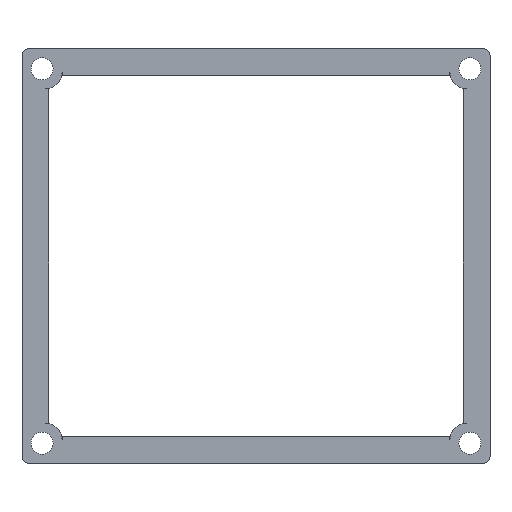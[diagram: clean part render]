
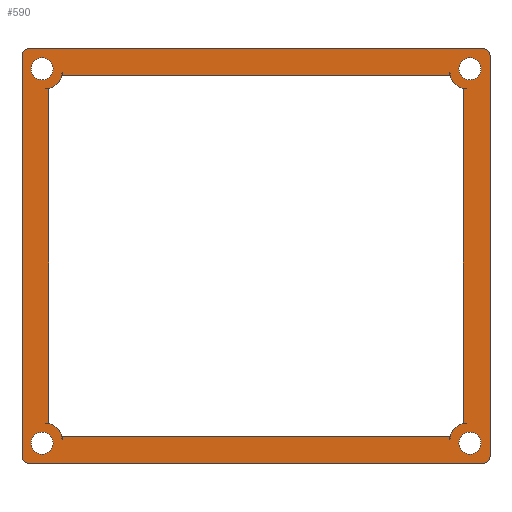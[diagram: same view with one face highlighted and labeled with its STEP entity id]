
A CAD part, top view. The second image highlights one B-rep face of the part: STEP entity #590.
In plain terms, the highlighted planar face has unit normal (0, 0, 1).
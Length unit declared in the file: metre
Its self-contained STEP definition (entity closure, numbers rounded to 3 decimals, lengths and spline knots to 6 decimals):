
#13=CIRCLE('',#608,0.001);
#15=CIRCLE('',#612,0.001);
#17=CIRCLE('',#616,0.001);
#19=CIRCLE('',#623,0.0025);
#21=CIRCLE('',#629,0.0025);
#23=CIRCLE('',#635,0.0025);
#25=CIRCLE('',#641,0.0025);
#27=CIRCLE('',#644,0.001);
#28=CIRCLE('',#646,0.00165);
#30=CIRCLE('',#649,0.00165);
#32=CIRCLE('',#652,0.00165);
#34=CIRCLE('',#655,0.00165);
#152=ORIENTED_EDGE('',*,*,#275,.T.);
#153=ORIENTED_EDGE('',*,*,#277,.T.);
#154=ORIENTED_EDGE('',*,*,#233,.F.);
#155=ORIENTED_EDGE('',*,*,#236,.T.);
#156=ORIENTED_EDGE('',*,*,#239,.T.);
#157=ORIENTED_EDGE('',*,*,#242,.T.);
#158=ORIENTED_EDGE('',*,*,#245,.F.);
#159=ORIENTED_EDGE('',*,*,#248,.T.);
#160=ORIENTED_EDGE('',*,*,#251,.T.);
#161=ORIENTED_EDGE('',*,*,#254,.T.);
#162=ORIENTED_EDGE('',*,*,#257,.F.);
#163=ORIENTED_EDGE('',*,*,#260,.T.);
#164=ORIENTED_EDGE('',*,*,#263,.T.);
#165=ORIENTED_EDGE('',*,*,#266,.T.);
#166=ORIENTED_EDGE('',*,*,#269,.F.);
#167=ORIENTED_EDGE('',*,*,#272,.F.);
#168=ORIENTED_EDGE('',*,*,#229,.F.);
#169=ORIENTED_EDGE('',*,*,#279,.T.);
#170=ORIENTED_EDGE('',*,*,#211,.T.);
#171=ORIENTED_EDGE('',*,*,#214,.T.);
#172=ORIENTED_EDGE('',*,*,#217,.T.);
#173=ORIENTED_EDGE('',*,*,#220,.T.);
#174=ORIENTED_EDGE('',*,*,#223,.F.);
#175=ORIENTED_EDGE('',*,*,#226,.T.);
#176=ORIENTED_EDGE('',*,*,#280,.T.);
#177=ORIENTED_EDGE('',*,*,#282,.T.);
#178=ORIENTED_EDGE('',*,*,#284,.T.);
#179=ORIENTED_EDGE('',*,*,#286,.T.);
#211=EDGE_CURVE('',#289,#291,#347,.T.);
#214=EDGE_CURVE('',#291,#293,#13,.T.);
#217=EDGE_CURVE('',#293,#295,#351,.F.);
#220=EDGE_CURVE('',#295,#297,#15,.T.);
#223=EDGE_CURVE('',#299,#297,#355,.T.);
#226=EDGE_CURVE('',#299,#301,#17,.T.);
#229=EDGE_CURVE('',#303,#301,#359,.F.);
#233=EDGE_CURVE('',#307,#305,#363,.F.);
#236=EDGE_CURVE('',#307,#309,#366,.T.);
#239=EDGE_CURVE('',#309,#311,#369,.F.);
#242=EDGE_CURVE('',#311,#313,#19,.T.);
#245=EDGE_CURVE('',#315,#313,#373,.T.);
#248=EDGE_CURVE('',#315,#317,#376,.T.);
#251=EDGE_CURVE('',#317,#319,#379,.T.);
#254=EDGE_CURVE('',#319,#321,#21,.T.);
#257=EDGE_CURVE('',#323,#321,#383,.T.);
#260=EDGE_CURVE('',#323,#325,#386,.F.);
#263=EDGE_CURVE('',#325,#327,#389,.T.);
#266=EDGE_CURVE('',#327,#329,#23,.T.);
#269=EDGE_CURVE('',#331,#329,#393,.F.);
#272=EDGE_CURVE('',#333,#331,#396,.T.);
#275=EDGE_CURVE('',#333,#335,#399,.F.);
#277=EDGE_CURVE('',#335,#305,#25,.T.);
#279=EDGE_CURVE('',#303,#289,#27,.T.);
#280=EDGE_CURVE('',#336,#336,#28,.T.);
#282=EDGE_CURVE('',#338,#338,#30,.T.);
#284=EDGE_CURVE('',#340,#340,#32,.T.);
#286=EDGE_CURVE('',#342,#342,#34,.T.);
#289=VERTEX_POINT('',#829);
#291=VERTEX_POINT('',#833);
#293=VERTEX_POINT('',#839);
#295=VERTEX_POINT('',#845);
#297=VERTEX_POINT('',#851);
#299=VERTEX_POINT('',#857);
#301=VERTEX_POINT('',#863);
#303=VERTEX_POINT('',#869);
#305=VERTEX_POINT('',#874);
#307=VERTEX_POINT('',#878);
#309=VERTEX_POINT('',#884);
#311=VERTEX_POINT('',#890);
#313=VERTEX_POINT('',#896);
#315=VERTEX_POINT('',#902);
#317=VERTEX_POINT('',#908);
#319=VERTEX_POINT('',#914);
#321=VERTEX_POINT('',#920);
#323=VERTEX_POINT('',#926);
#325=VERTEX_POINT('',#932);
#327=VERTEX_POINT('',#938);
#329=VERTEX_POINT('',#944);
#331=VERTEX_POINT('',#950);
#333=VERTEX_POINT('',#956);
#335=VERTEX_POINT('',#962);
#336=VERTEX_POINT('',#972);
#338=VERTEX_POINT('',#977);
#340=VERTEX_POINT('',#982);
#342=VERTEX_POINT('',#987);
#347=LINE('',#834,#403);
#351=LINE('',#846,#407);
#355=LINE('',#858,#411);
#359=LINE('',#870,#415);
#363=LINE('',#879,#419);
#366=LINE('',#885,#422);
#369=LINE('',#891,#425);
#373=LINE('',#903,#429);
#376=LINE('',#909,#432);
#379=LINE('',#915,#435);
#383=LINE('',#927,#439);
#386=LINE('',#933,#442);
#389=LINE('',#939,#445);
#393=LINE('',#951,#449);
#396=LINE('',#957,#452);
#399=LINE('',#963,#455);
#403=VECTOR('',#666,1.);
#407=VECTOR('',#678,1.);
#411=VECTOR('',#690,1.);
#415=VECTOR('',#702,1.);
#419=VECTOR('',#708,1.);
#422=VECTOR('',#713,1.);
#425=VECTOR('',#718,1.);
#429=VECTOR('',#730,1.);
#432=VECTOR('',#735,1.);
#435=VECTOR('',#740,1.);
#439=VECTOR('',#752,1.);
#442=VECTOR('',#757,1.);
#445=VECTOR('',#762,1.);
#449=VECTOR('',#774,1.);
#452=VECTOR('',#779,1.);
#455=VECTOR('',#784,1.);
#488=EDGE_LOOP('',(#152,#153,#154,#155,#156,#157,#158,#159,#160,#161,#162,#163,#164,#165,#166,#167));
#489=EDGE_LOOP('',(#168,#169,#170,#171,#172,#173,#174,#175));
#490=EDGE_LOOP('',(#176));
#491=EDGE_LOOP('',(#177));
#492=EDGE_LOOP('',(#178));
#493=EDGE_LOOP('',(#179));
#532=FACE_BOUND('',#488,.T.);
#533=FACE_BOUND('',#489,.T.);
#534=FACE_BOUND('',#490,.T.);
#535=FACE_BOUND('',#491,.T.);
#536=FACE_BOUND('',#492,.T.);
#537=FACE_BOUND('',#493,.T.);
#560=PLANE('',#657);
#590=ADVANCED_FACE('',(#532,#533,#534,#535,#536,#537),#560,.T.);
#608=AXIS2_PLACEMENT_3D('',#840,#672,#673);
#612=AXIS2_PLACEMENT_3D('',#852,#684,#685);
#616=AXIS2_PLACEMENT_3D('',#864,#696,#697);
#623=AXIS2_PLACEMENT_3D('',#897,#724,#725);
#629=AXIS2_PLACEMENT_3D('',#921,#746,#747);
#635=AXIS2_PLACEMENT_3D('',#945,#768,#769);
#641=AXIS2_PLACEMENT_3D('',#966,#789,#790);
#644=AXIS2_PLACEMENT_3D('',#969,#795,#796);
#646=AXIS2_PLACEMENT_3D('',#971,#799,#800);
#649=AXIS2_PLACEMENT_3D('',#976,#805,#806);
#652=AXIS2_PLACEMENT_3D('',#981,#811,#812);
#655=AXIS2_PLACEMENT_3D('',#986,#817,#818);
#657=AXIS2_PLACEMENT_3D('',#990,#821,#822);
#666=DIRECTION('',(0.,1.,0.));
#672=DIRECTION('',(0.,0.,1.));
#673=DIRECTION('',(1.,0.,0.));
#678=DIRECTION('',(1.,0.,0.));
#684=DIRECTION('',(0.,0.,1.));
#685=DIRECTION('',(1.,0.,0.));
#690=DIRECTION('',(0.,1.,0.));
#696=DIRECTION('',(0.,0.,1.));
#697=DIRECTION('',(1.,0.,0.));
#702=DIRECTION('',(1.,0.,0.));
#708=DIRECTION('',(1.,0.,0.));
#713=DIRECTION('',(0.,1.,0.));
#718=DIRECTION('',(1.,0.,0.));
#724=DIRECTION('',(0.,0.,1.));
#725=DIRECTION('',(1.,0.,0.));
#730=DIRECTION('',(0.,1.,0.));
#735=DIRECTION('',(1.,0.,0.));
#740=DIRECTION('',(0.,1.,0.));
#746=DIRECTION('',(0.,0.,1.));
#747=DIRECTION('',(1.,0.,0.));
#752=DIRECTION('',(1.,0.,0.));
#757=DIRECTION('',(0.,1.,0.));
#762=DIRECTION('',(1.,0.,0.));
#768=DIRECTION('',(0.,0.,1.));
#769=DIRECTION('',(1.,0.,0.));
#774=DIRECTION('',(0.,1.,0.));
#779=DIRECTION('',(1.,0.,0.));
#784=DIRECTION('',(0.,1.,0.));
#789=DIRECTION('',(0.,0.,1.));
#790=DIRECTION('',(1.,0.,0.));
#795=DIRECTION('',(0.,0.,1.));
#796=DIRECTION('',(1.,0.,0.));
#799=DIRECTION('',(0.,0.,-1.));
#800=DIRECTION('',(-1.,0.,0.));
#805=DIRECTION('',(0.,0.,-1.));
#806=DIRECTION('',(-1.,0.,0.));
#811=DIRECTION('',(0.,0.,-1.));
#812=DIRECTION('',(-1.,0.,0.));
#817=DIRECTION('',(0.,0.,-1.));
#818=DIRECTION('',(-1.,0.,0.));
#821=DIRECTION('',(0.,0.,1.));
#822=DIRECTION('',(1.,0.,0.));
#829=CARTESIAN_POINT('',(0.035,-0.03,0.0345));
#833=CARTESIAN_POINT('',(0.035,0.03,0.0345));
#834=CARTESIAN_POINT('',(0.035,0.,0.0345));
#839=CARTESIAN_POINT('',(0.034,0.031,0.0345));
#840=CARTESIAN_POINT('',(0.034,0.03,0.0345));
#845=CARTESIAN_POINT('',(-0.034,0.031,0.0345));
#846=CARTESIAN_POINT('',(0.,0.031,0.0345));
#851=CARTESIAN_POINT('',(-0.035,0.03,0.0345));
#852=CARTESIAN_POINT('',(-0.034,0.03,0.0345));
#857=CARTESIAN_POINT('',(-0.035,-0.03,0.0345));
#858=CARTESIAN_POINT('',(-0.035,0.,0.0345));
#863=CARTESIAN_POINT('',(-0.034,-0.031,0.0345));
#864=CARTESIAN_POINT('',(-0.034,-0.03,0.0345));
#869=CARTESIAN_POINT('',(0.034,-0.031,0.0345));
#870=CARTESIAN_POINT('',(0.,-0.031,0.0345));
#874=CARTESIAN_POINT('',(-0.0315,-0.025,0.0345));
#878=CARTESIAN_POINT('',(-0.031,-0.025,0.0345));
#879=CARTESIAN_POINT('',(0.,-0.025,0.0345));
#884=CARTESIAN_POINT('',(-0.031,0.025,0.0345));
#885=CARTESIAN_POINT('',(-0.031,0.,0.0345));
#890=CARTESIAN_POINT('',(-0.0315,0.025,0.0345));
#891=CARTESIAN_POINT('',(0.,0.025,0.0345));
#896=CARTESIAN_POINT('',(-0.029,0.0275,0.0345));
#897=CARTESIAN_POINT('',(-0.0315,0.0275,0.0345));
#902=CARTESIAN_POINT('',(-0.029,0.027,0.0345));
#903=CARTESIAN_POINT('',(-0.029,0.,0.0345));
#908=CARTESIAN_POINT('',(0.029,0.027,0.0345));
#909=CARTESIAN_POINT('',(0.,0.027,0.0345));
#914=CARTESIAN_POINT('',(0.029,0.0275,0.0345));
#915=CARTESIAN_POINT('',(0.029,0.,0.0345));
#920=CARTESIAN_POINT('',(0.0315,0.025,0.0345));
#921=CARTESIAN_POINT('',(0.0315,0.0275,0.0345));
#926=CARTESIAN_POINT('',(0.031,0.025,0.0345));
#927=CARTESIAN_POINT('',(0.,0.025,0.0345));
#932=CARTESIAN_POINT('',(0.031,-0.025,0.0345));
#933=CARTESIAN_POINT('',(0.031,0.,0.0345));
#938=CARTESIAN_POINT('',(0.0315,-0.025,0.0345));
#939=CARTESIAN_POINT('',(0.,-0.025,0.0345));
#944=CARTESIAN_POINT('',(0.029,-0.0275,0.0345));
#945=CARTESIAN_POINT('',(0.0315,-0.0275,0.0345));
#950=CARTESIAN_POINT('',(0.029,-0.027,0.0345));
#951=CARTESIAN_POINT('',(0.029,0.,0.0345));
#956=CARTESIAN_POINT('',(-0.029,-0.027,0.0345));
#957=CARTESIAN_POINT('',(0.,-0.027,0.0345));
#962=CARTESIAN_POINT('',(-0.029,-0.0275,0.0345));
#963=CARTESIAN_POINT('',(-0.029,0.,0.0345));
#966=CARTESIAN_POINT('',(-0.0315,-0.0275,0.0345));
#969=CARTESIAN_POINT('',(0.034,-0.03,0.0345));
#971=CARTESIAN_POINT('',(-0.032,0.028,0.0345));
#972=CARTESIAN_POINT('',(-0.03365,0.028,0.0345));
#976=CARTESIAN_POINT('',(-0.032,-0.028,0.0345));
#977=CARTESIAN_POINT('',(-0.03365,-0.028,0.0345));
#981=CARTESIAN_POINT('',(0.032,-0.028,0.0345));
#982=CARTESIAN_POINT('',(0.03035,-0.028,0.0345));
#986=CARTESIAN_POINT('',(0.032,0.028,0.0345));
#987=CARTESIAN_POINT('',(0.03035,0.028,0.0345));
#990=CARTESIAN_POINT('',(0.,0.,0.0345));
